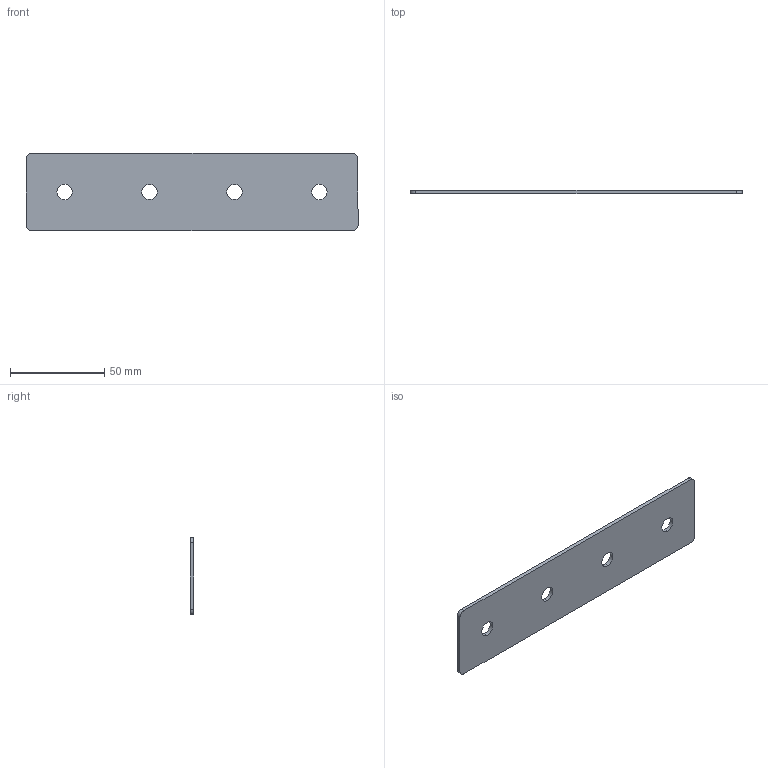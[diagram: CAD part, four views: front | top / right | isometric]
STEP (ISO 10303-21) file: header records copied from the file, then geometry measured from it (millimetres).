
FILE_DESCRIPTION (( 'STEP AP203' ), '1' );
FILE_NAME ('ﾏ-4-45.STEP', '2016-07-23T14:52:57', ( '' ), ( '' ), 'SwSTEP 2.0', 'SolidWorks 2014', '' );
FILE_SCHEMA (( 'CONFIG_CONTROL_DESIGN' ));
Length unit declared in the file: millimetre
Products named in the file (1): ﾏ-4-45
Bounding box: 176 x 2 x 41 mm (x, y, z)
Volume: 13994.3 mm3; surface area: 15058.1 mm2
Topology: 1 solids, 1 shells, 18 faces, 48 edges, 32 vertices
Faces by surface type: cylinder 12, plane 6
Entity records: 669 total; most frequent: DIRECTION 110, CARTESIAN_POINT 99, ORIENTED_EDGE 96, EDGE_CURVE 48, AXIS2_PLACEMENT_3D 43, VERTEX_POINT 32, EDGE_LOOP 26, VECTOR 24
